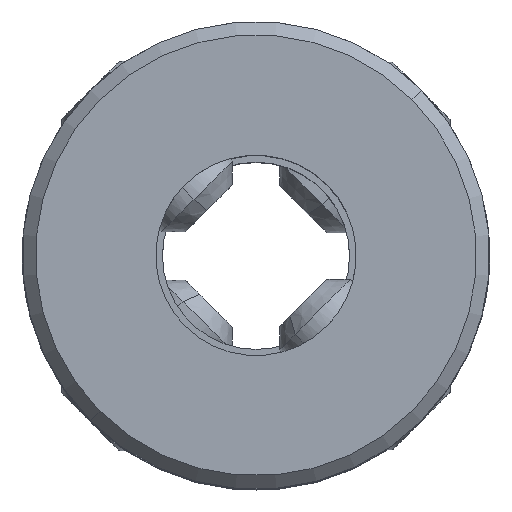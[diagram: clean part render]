
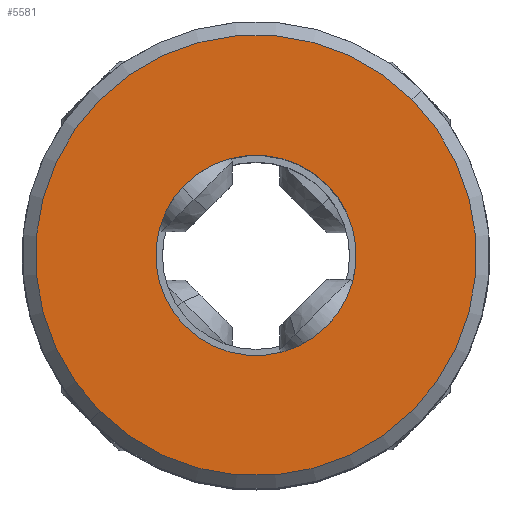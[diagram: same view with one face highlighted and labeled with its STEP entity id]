
A CAD part, top view. The second image highlights one B-rep face of the part: STEP entity #5581.
In plain terms, the highlighted planar face has unit normal (0, 0, 1).
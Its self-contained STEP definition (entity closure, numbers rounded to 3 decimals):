
#134 = EDGE_CURVE ( 'NONE', #8843, #10443, #6898, .T. ) ;
#510 = CARTESIAN_POINT ( 'NONE',  ( 2.121, 2.121, 11. ) ) ;
#646 = ORIENTED_EDGE ( 'NONE', *, *, #8240, .T. ) ;
#750 = FACE_BOUND ( 'NONE', #2260, .T. ) ;
#816 = CIRCLE ( 'NONE', #4926, 3. ) ;
#1135 = EDGE_LOOP ( 'NONE', ( #4863, #646 ) ) ;
#1152 = CARTESIAN_POINT ( 'NONE',  ( 0., 0., 11. ) ) ;
#1398 = DIRECTION ( 'NONE',  ( 0., 0., -1. ) ) ;
#1493 = CARTESIAN_POINT ( 'NONE',  ( -2.121, -2.121, 11. ) ) ;
#2260 = EDGE_LOOP ( 'NONE', ( #4693, #6850 ) ) ;
#2335 = AXIS2_PLACEMENT_3D ( 'NONE', #1152, #2765, #7865 ) ;
#2638 = AXIS2_PLACEMENT_3D ( 'NONE', #3900, #10519, #10554 ) ;
#2765 = DIRECTION ( 'NONE',  ( 0., 0., -1. ) ) ;
#3352 = VERTEX_POINT ( 'NONE', #3878 ) ;
#3878 = CARTESIAN_POINT ( 'NONE',  ( 4.667, 4.667, 11. ) ) ;
#3900 = CARTESIAN_POINT ( 'NONE',  ( 0., 0., 11. ) ) ;
#4490 = CARTESIAN_POINT ( 'NONE',  ( -4.667, -4.667, 11. ) ) ;
#4693 = ORIENTED_EDGE ( 'NONE', *, *, #134, .T. ) ;
#4863 = ORIENTED_EDGE ( 'NONE', *, *, #10781, .T. ) ;
#4895 = AXIS2_PLACEMENT_3D ( 'NONE', #10764, #5931, #6647 ) ;
#4926 = AXIS2_PLACEMENT_3D ( 'NONE', #7088, #1398, #6333 ) ;
#5056 = FACE_OUTER_BOUND ( 'NONE', #1135, .T. ) ;
#5287 = CARTESIAN_POINT ( 'NONE',  ( 0., 0., 11. ) ) ;
#5581 = ADVANCED_FACE ( 'NONE', ( #5056, #750 ), #9271, .F. ) ;
#5646 = CIRCLE ( 'NONE', #2638, 6.6 ) ;
#5931 = DIRECTION ( 'NONE',  ( 0., 0., -1. ) ) ;
#6303 = AXIS2_PLACEMENT_3D ( 'NONE', #5287, #7721, #8444 ) ;
#6333 = DIRECTION ( 'NONE',  ( -0.707, -0.707, 0. ) ) ;
#6647 = DIRECTION ( 'NONE',  ( -0.707, -0.707, 0. ) ) ;
#6850 = ORIENTED_EDGE ( 'NONE', *, *, #9185, .T. ) ;
#6898 = CIRCLE ( 'NONE', #2335, 3. ) ;
#7088 = CARTESIAN_POINT ( 'NONE',  ( 0., 0., 11. ) ) ;
#7721 = DIRECTION ( 'NONE',  ( 0., 0., 1. ) ) ;
#7865 = DIRECTION ( 'NONE',  ( -0.707, -0.707, 0. ) ) ;
#8220 = VERTEX_POINT ( 'NONE', #4490 ) ;
#8240 = EDGE_CURVE ( 'NONE', #3352, #8220, #5646, .T. ) ;
#8444 = DIRECTION ( 'NONE',  ( -0.707, -0.707, 0. ) ) ;
#8843 = VERTEX_POINT ( 'NONE', #1493 ) ;
#9185 = EDGE_CURVE ( 'NONE', #10443, #8843, #816, .T. ) ;
#9251 = CIRCLE ( 'NONE', #6303, 6.6 ) ;
#9271 = PLANE ( 'NONE',  #4895 ) ;
#10443 = VERTEX_POINT ( 'NONE', #510 ) ;
#10519 = DIRECTION ( 'NONE',  ( 0., 0., 1. ) ) ;
#10554 = DIRECTION ( 'NONE',  ( -0.707, -0.707, 0. ) ) ;
#10764 = CARTESIAN_POINT ( 'NONE',  ( 0., 0., 11. ) ) ;
#10781 = EDGE_CURVE ( 'NONE', #8220, #3352, #9251, .T. ) ;
